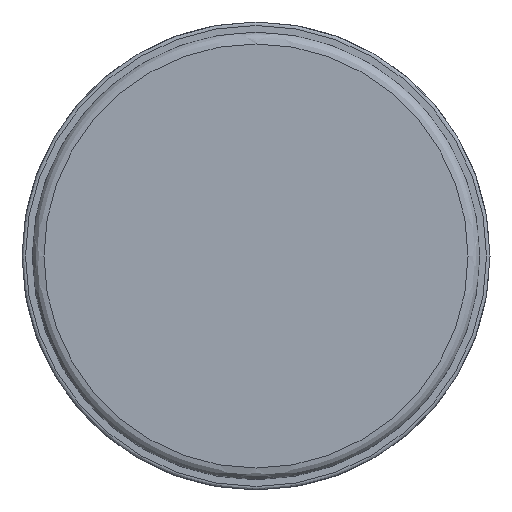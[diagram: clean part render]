
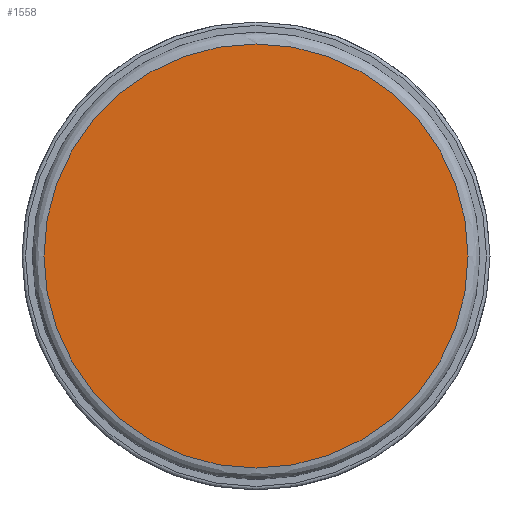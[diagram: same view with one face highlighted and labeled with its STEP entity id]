
A CAD part, front view. The second image highlights one B-rep face of the part: STEP entity #1558.
In plain terms, the highlighted planar face has unit normal (0, -1, 0).
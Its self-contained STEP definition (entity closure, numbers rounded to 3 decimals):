
#1533=CARTESIAN_POINT('',(12.546,103.982,-45.9));
#1534=DIRECTION('',(0.0,-1.0,0.0));
#1535=DIRECTION('',(0.0,0.0,1.0));
#1536=AXIS2_PLACEMENT_3D('',#1533,#1534,#1535);
#1537=PLANE('',#1536);
#1538=CARTESIAN_POINT('',(-33.354,103.982,36.25));
#1539=VERTEX_POINT('',#1538);
#1540=CARTESIAN_POINT('',(-33.354,103.982,-36.25));
#1541=VERTEX_POINT('',#1540);
#1542=CARTESIAN_POINT('',(-33.354,103.982,0.0));
#1543=DIRECTION('',(0.,-1.0,0.0));
#1544=DIRECTION('',(0.0,0.0,1.0));
#1545=AXIS2_PLACEMENT_3D('',#1542,#1543,#1544);
#1546=CIRCLE('',#1545,36.25);
#1547=EDGE_CURVE('',#1539,#1541,#1546,.T.);
#1548=ORIENTED_EDGE('',*,*,#1547,.T.);
#1549=CARTESIAN_POINT('',(-33.354,103.982,0.0));
#1550=DIRECTION('',(0.,-1.0,0.0));
#1551=DIRECTION('',(0.0,0.0,1.0));
#1552=AXIS2_PLACEMENT_3D('',#1549,#1550,#1551);
#1553=CIRCLE('',#1552,36.25);
#1554=EDGE_CURVE('',#1541,#1539,#1553,.T.);
#1555=ORIENTED_EDGE('',*,*,#1554,.T.);
#1556=EDGE_LOOP('',(#1548,#1555));
#1557=FACE_OUTER_BOUND('',#1556,.T.);
#1558=ADVANCED_FACE('',(#1557),#1537,.T.);
